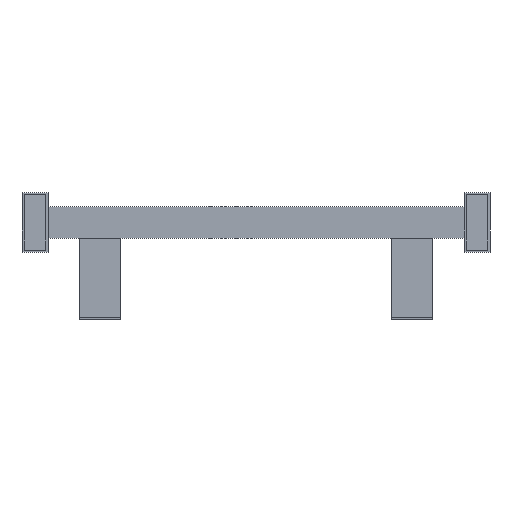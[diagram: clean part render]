
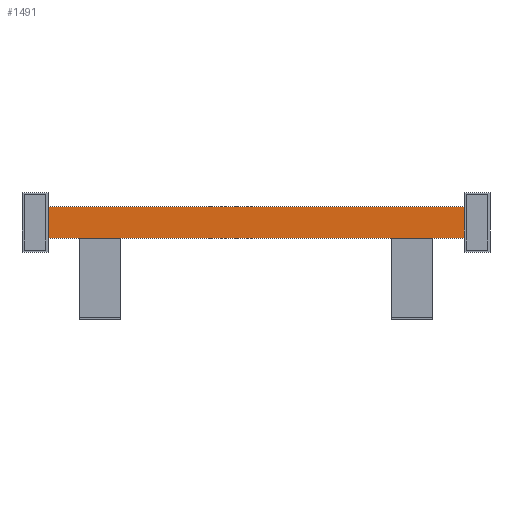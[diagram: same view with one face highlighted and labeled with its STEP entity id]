
A CAD part, front view. The second image highlights one B-rep face of the part: STEP entity #1491.
In plain terms, the highlighted planar face has unit normal (0, -1, 0).
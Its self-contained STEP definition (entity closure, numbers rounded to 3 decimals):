
#253=DIRECTION('',(0.,0.,1.));
#254=VECTOR('',#253,30.);
#255=CARTESIAN_POINT('',(-200.,250.,-15.));
#256=LINE('',#255,#254);
#353=DIRECTION('',(0.,0.,1.));
#354=VECTOR('',#353,30.);
#355=CARTESIAN_POINT('',(200.,250.,-15.));
#356=LINE('',#355,#354);
#561=DIRECTION('',(1.,0.,0.));
#562=VECTOR('',#561,400.);
#563=CARTESIAN_POINT('',(-200.,250.,-15.));
#564=LINE('',#563,#562);
#573=DIRECTION('',(1.,0.,0.));
#574=VECTOR('',#573,400.);
#575=CARTESIAN_POINT('',(-200.,250.,15.));
#576=LINE('',#575,#574);
#721=CARTESIAN_POINT('',(-200.,250.,-15.));
#723=VERTEX_POINT('',#721);
#725=CARTESIAN_POINT('',(-200.,250.,15.));
#727=VERTEX_POINT('',#725);
#729=CARTESIAN_POINT('',(200.,250.,-15.));
#731=VERTEX_POINT('',#729);
#733=CARTESIAN_POINT('',(200.,250.,15.));
#735=VERTEX_POINT('',#733);
#1479=CARTESIAN_POINT('',(-200.,250.,-15.));
#1480=DIRECTION('',(0.,-1.,0.));
#1481=DIRECTION('',(1.,0.,0.));
#1482=AXIS2_PLACEMENT_3D('',#1479,#1480,#1481);
#1483=PLANE('',#1482);
#1484=ORIENTED_EDGE('',*,*,#960,.T.);
#1486=ORIENTED_EDGE('',*,*,#1485,.T.);
#1487=ORIENTED_EDGE('',*,*,#1064,.F.);
#1488=ORIENTED_EDGE('',*,*,#1471,.F.);
#1489=EDGE_LOOP('',(#1484,#1486,#1487,#1488));
#1490=FACE_OUTER_BOUND('',#1489,.F.);
#960=EDGE_CURVE('',#723,#727,#256,.T.);
#1064=EDGE_CURVE('',#731,#735,#356,.T.);
#1471=EDGE_CURVE('',#723,#731,#564,.T.);
#1485=EDGE_CURVE('',#727,#735,#576,.T.);
#1491=ADVANCED_FACE('',(#1490),#1483,.T.);
